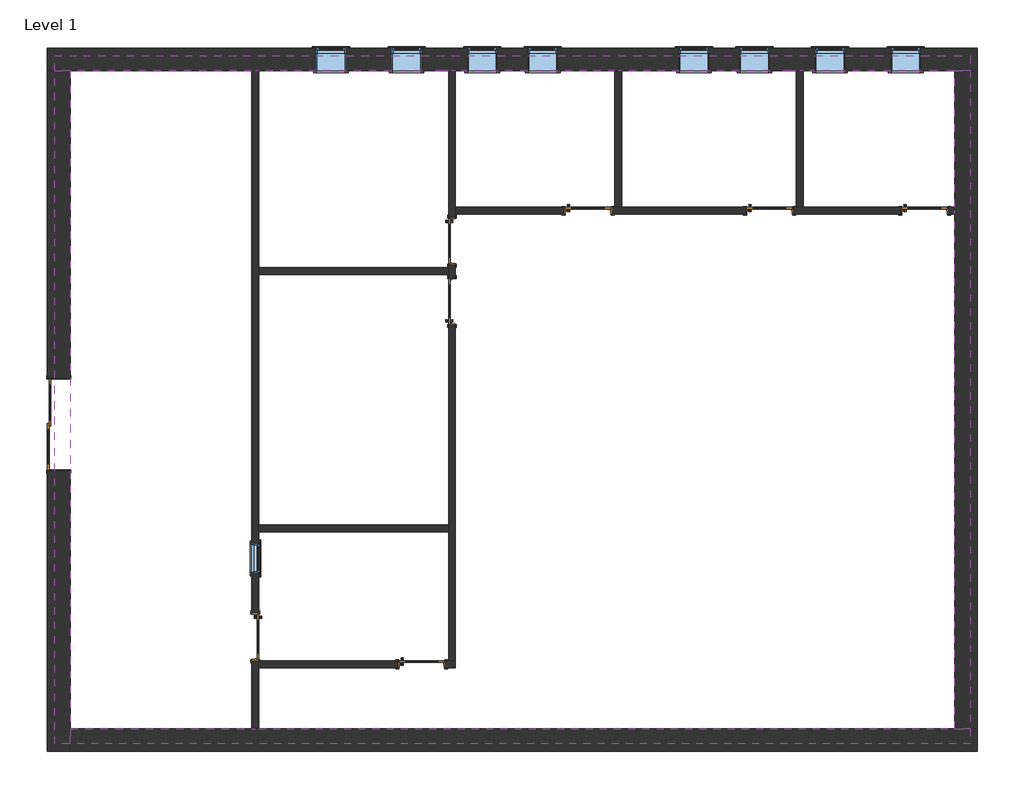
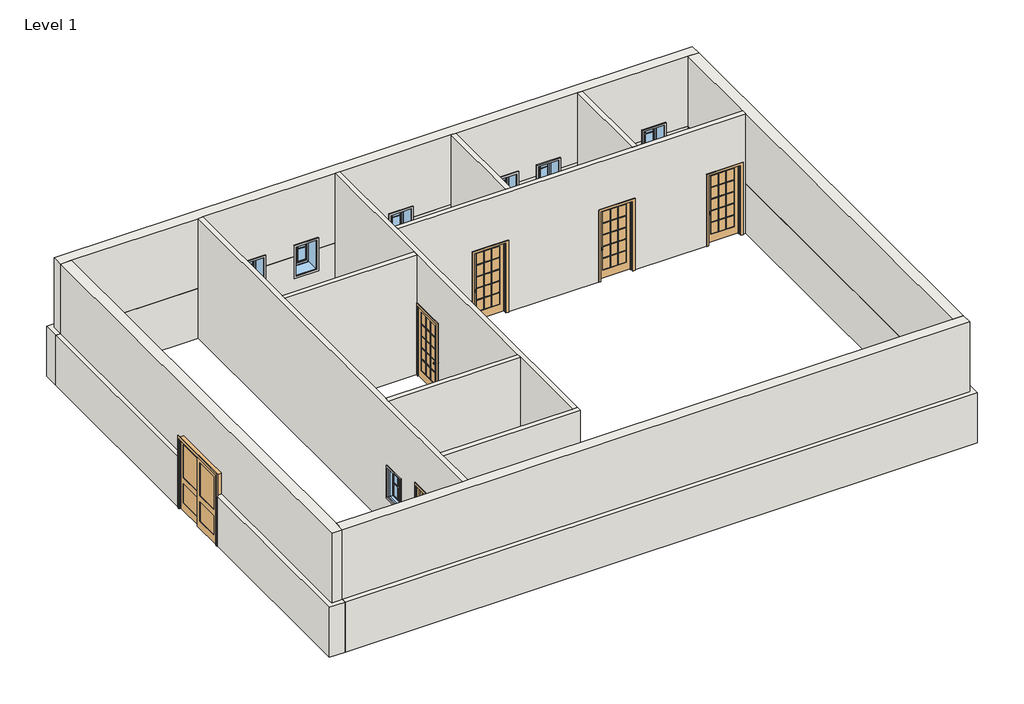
# One storey: 27 proxies, 16 walls, 9 windows, 8 doors.
"""IFC4 building model written with IfcOpenShell, lengths in millimetres."""

from ifc_helpers import new_model, si_unit, origin, origin_with_axes, place, context, project, spatial, polyline, outline, extrude, faceted_brep, transform, mapped, element, save
from components import muntin_pattern_2x2_muntin_pattern_2x2_cf4092f1, muntin_pattern_2x2_muntin_pattern_2x2_49143b38, trim_window_exterior_flat_with_sill_a665a915, trim_window_exterior_flat_with_sill_4c72db77, trim_window_interior_flat_picture_frame_d485c387, trim_window_interior_flat_picture_frame_dfd23ff3, door_5c496fa4, door_918c180d, door_79dd3e86, window_d7bc73cd, window_1658a7ae, window_2d4a29d0

model = new_model("IFC4")

# Units and contexts
model_context = context("Model", 3, world=origin())
ifc_project = project(units=[si_unit("LENGTHUNIT", "METRE", prefix="MILLI")], contexts=[model_context])

# Site, building, storey
site = spatial("IfcSite", under=ifc_project)
building = spatial("IfcBuilding", under=site)
storey = spatial("IfcBuildingStorey", under=building, Name="Level 1", Elevation=0.0)

# Proxies
placement = place(None, origin())
muntin_pattern_2x2_muntin_pattern_2x2_shape = muntin_pattern_2x2_muntin_pattern_2x2_cf4092f1(model_context)
element("IfcBuildingElementProxy", 1, Name="Muntin Pattern_2x2 : Muntin Pattern_2x2", ObjectType="Muntin Pattern_2x2 : Muntin Pattern_2x2", at=placement, inside=storey, context=model_context, shape_type="MappedRepresentation", body=[
    mapped(muntin_pattern_2x2_muntin_pattern_2x2_shape, transform((-14168.6597136, 1858.8705992, 984.25), x_axis=(0.0, -1.0, 0.0), y_axis=(1.0, 0.0, 0.0), z_axis=(0.0, 0.0, 1.0))),
])
element("IfcBuildingElementProxy", 2, Name="Muntin Pattern_2x2 : Muntin Pattern_2x2", ObjectType="Muntin Pattern_2x2 : Muntin Pattern_2x2", at=placement, inside=storey, context=model_context, shape_type="MappedRepresentation", body=[
    mapped(muntin_pattern_2x2_muntin_pattern_2x2_shape, transform((-1122.5847136, 12134.7580992, 984.25), x_axis=(1.0, 0.0, 0.0), y_axis=(0.0, 1.0, 0.0), z_axis=(0.0, 0.0, 1.0))),
])
element("IfcBuildingElementProxy", 3, Name="Muntin Pattern_2x2 : Muntin Pattern_2x2", ObjectType="Muntin Pattern_2x2 : Muntin Pattern_2x2", at=placement, inside=storey, context=model_context, shape_type="MappedRepresentation", body=[
    mapped(muntin_pattern_2x2_muntin_pattern_2x2_shape, transform((-2646.5847136, 12134.7580992, 984.25), x_axis=(1.0, 0.0, 0.0), y_axis=(0.0, 1.0, 0.0), z_axis=(0.0, 0.0, 1.0))),
])
element("IfcBuildingElementProxy", 4, Name="Muntin Pattern_2x2 : Muntin Pattern_2x2", ObjectType="Muntin Pattern_2x2 : Muntin Pattern_2x2", at=placement, inside=storey, context=model_context, shape_type="MappedRepresentation", body=[
    mapped(muntin_pattern_2x2_muntin_pattern_2x2_shape, transform((-4170.5847136, 12134.7580992, 984.25), x_axis=(1.0, 0.0, 0.0), y_axis=(0.0, 1.0, 0.0), z_axis=(0.0, 0.0, 1.0))),
])
element("IfcBuildingElementProxy", 5, Name="Muntin Pattern_2x2 : Muntin Pattern_2x2", ObjectType="Muntin Pattern_2x2 : Muntin Pattern_2x2", at=placement, inside=storey, context=model_context, shape_type="MappedRepresentation", body=[
    mapped(muntin_pattern_2x2_muntin_pattern_2x2_shape, transform((-5389.7847136, 12134.7580992, 984.25), x_axis=(1.0, 0.0, 0.0), y_axis=(0.0, 1.0, 0.0), z_axis=(0.0, 0.0, 1.0))),
])
muntin_pattern_2x2_muntin_pattern_2x2_2_shape = muntin_pattern_2x2_muntin_pattern_2x2_49143b38(model_context)
element("IfcBuildingElementProxy", 6, Name="Muntin Pattern_2x2 : Muntin Pattern_2x2", ObjectType="Muntin Pattern_2x2 : Muntin Pattern_2x2", at=placement, inside=storey, context=model_context, shape_type="MappedRepresentation", body=[
    mapped(muntin_pattern_2x2_muntin_pattern_2x2_2_shape, transform((-12704.9847136, 12134.7580992, 984.25), x_axis=(-1.0, 0.0, 0.0), y_axis=(0.0, -1.0, 0.0), z_axis=(0.0, 0.0, 1.0))),
])
element("IfcBuildingElementProxy", 7, Name="Muntin Pattern_2x2 : Muntin Pattern_2x2", ObjectType="Muntin Pattern_2x2 : Muntin Pattern_2x2", at=placement, inside=storey, context=model_context, shape_type="MappedRepresentation", body=[
    mapped(muntin_pattern_2x2_muntin_pattern_2x2_2_shape, transform((-11180.9847136, 12134.7580992, 984.25), x_axis=(-1.0, 0.0, 0.0), y_axis=(0.0, -1.0, 0.0), z_axis=(0.0, 0.0, 1.0))),
])
element("IfcBuildingElementProxy", 8, Name="Muntin Pattern_2x2 : Muntin Pattern_2x2", ObjectType="Muntin Pattern_2x2 : Muntin Pattern_2x2", at=placement, inside=storey, context=model_context, shape_type="MappedRepresentation", body=[
    mapped(muntin_pattern_2x2_muntin_pattern_2x2_2_shape, transform((-9656.9847136, 12134.7580992, 984.25), x_axis=(-1.0, 0.0, 0.0), y_axis=(0.0, -1.0, 0.0), z_axis=(0.0, 0.0, 1.0))),
])
element("IfcBuildingElementProxy", 9, Name="Muntin Pattern_2x2 : Muntin Pattern_2x2", ObjectType="Muntin Pattern_2x2 : Muntin Pattern_2x2", at=placement, inside=storey, context=model_context, shape_type="MappedRepresentation", body=[
    mapped(muntin_pattern_2x2_muntin_pattern_2x2_2_shape, transform((-8437.7847136, 12134.7580992, 984.25), x_axis=(-1.0, 0.0, 0.0), y_axis=(0.0, -1.0, 0.0), z_axis=(0.0, 0.0, 1.0))),
])
trim_window_exterior_flat_with_sill_shape = trim_window_exterior_flat_with_sill_a665a915(model_context)
element("IfcBuildingElementProxy", 10, Name="Trim-Window-Exterior-Flat : with Sill", ObjectType="Trim-Window-Exterior-Flat : with Sill", at=placement, inside=storey, context=model_context, shape_type="MappedRepresentation", body=[
    mapped(trim_window_exterior_flat_with_sill_shape, transform((-14159.1347136, 1858.8705992, 1828.8), x_axis=(0.0, 1.0, 0.0), y_axis=(0.0, 0.0, 1.0), z_axis=(1.0, 0.0, 0.0))),
])
element("IfcBuildingElementProxy", 11, Name="Trim-Window-Exterior-Flat : with Sill", ObjectType="Trim-Window-Exterior-Flat : with Sill", at=placement, inside=storey, context=model_context, shape_type="MappedRepresentation", body=[
    mapped(trim_window_exterior_flat_with_sill_shape, transform((-1122.5847136, 12144.2830992, 1828.8), x_axis=(-1.0, 0.0, 0.0), y_axis=(0.0, 0.0, 1.0), z_axis=(0.0, 1.0, 0.0))),
])
element("IfcBuildingElementProxy", 12, Name="Trim-Window-Exterior-Flat : with Sill", ObjectType="Trim-Window-Exterior-Flat : with Sill", at=placement, inside=storey, context=model_context, shape_type="MappedRepresentation", body=[
    mapped(trim_window_exterior_flat_with_sill_shape, transform((-2646.5847136, 12144.2830992, 1828.8), x_axis=(-1.0, 0.0, 0.0), y_axis=(0.0, 0.0, 1.0), z_axis=(0.0, 1.0, 0.0))),
])
element("IfcBuildingElementProxy", 13, Name="Trim-Window-Exterior-Flat : with Sill", ObjectType="Trim-Window-Exterior-Flat : with Sill", at=placement, inside=storey, context=model_context, shape_type="MappedRepresentation", body=[
    mapped(trim_window_exterior_flat_with_sill_shape, transform((-4170.5847136, 12144.2830992, 1828.8), x_axis=(-1.0, 0.0, 0.0), y_axis=(0.0, 0.0, 1.0), z_axis=(0.0, 1.0, 0.0))),
])
element("IfcBuildingElementProxy", 14, Name="Trim-Window-Exterior-Flat : with Sill", ObjectType="Trim-Window-Exterior-Flat : with Sill", at=placement, inside=storey, context=model_context, shape_type="MappedRepresentation", body=[
    mapped(trim_window_exterior_flat_with_sill_shape, transform((-5389.7847136, 12144.2830992, 1828.8), x_axis=(-1.0, 0.0, 0.0), y_axis=(0.0, 0.0, 1.0), z_axis=(0.0, 1.0, 0.0))),
])
trim_window_exterior_flat_with_sill_2_shape = trim_window_exterior_flat_with_sill_4c72db77(model_context)
element("IfcBuildingElementProxy", 15, Name="Trim-Window-Exterior-Flat : with Sill", ObjectType="Trim-Window-Exterior-Flat : with Sill", at=placement, inside=storey, context=model_context, shape_type="MappedRepresentation", body=[
    mapped(trim_window_exterior_flat_with_sill_2_shape, transform((-12704.9847136, 12144.2830992, 1828.8), x_axis=(1.0, 0.0, 0.0), y_axis=(0.0, 0.0, -1.0), z_axis=(0.0, 1.0, 0.0))),
])
element("IfcBuildingElementProxy", 16, Name="Trim-Window-Exterior-Flat : with Sill", ObjectType="Trim-Window-Exterior-Flat : with Sill", at=placement, inside=storey, context=model_context, shape_type="MappedRepresentation", body=[
    mapped(trim_window_exterior_flat_with_sill_2_shape, transform((-11180.9847136, 12144.2830992, 1828.8), x_axis=(1.0, 0.0, 0.0), y_axis=(0.0, 0.0, -1.0), z_axis=(0.0, 1.0, 0.0))),
])
element("IfcBuildingElementProxy", 17, Name="Trim-Window-Exterior-Flat : with Sill", ObjectType="Trim-Window-Exterior-Flat : with Sill", at=placement, inside=storey, context=model_context, shape_type="MappedRepresentation", body=[
    mapped(trim_window_exterior_flat_with_sill_2_shape, transform((-9656.9847136, 12144.2830992, 1828.8), x_axis=(1.0, 0.0, 0.0), y_axis=(0.0, 0.0, -1.0), z_axis=(0.0, 1.0, 0.0))),
])
element("IfcBuildingElementProxy", 18, Name="Trim-Window-Exterior-Flat : with Sill", ObjectType="Trim-Window-Exterior-Flat : with Sill", at=placement, inside=storey, context=model_context, shape_type="MappedRepresentation", body=[
    mapped(trim_window_exterior_flat_with_sill_2_shape, transform((-8437.7847136, 12144.2830992, 1828.8), x_axis=(1.0, 0.0, 0.0), y_axis=(0.0, 0.0, -1.0), z_axis=(0.0, 1.0, 0.0))),
])
trim_window_interior_flat_picture_frame_shape = trim_window_interior_flat_picture_frame_d485c387(model_context)
element("IfcBuildingElementProxy", 19, Name="Trim-Window-Interior-Flat : Picture Frame", ObjectType="Trim-Window-Interior-Flat : Picture Frame", at=placement, inside=storey, context=model_context, shape_type="MappedRepresentation", body=[
    mapped(trim_window_interior_flat_picture_frame_shape, transform((-14298.8347136, 1858.8705992, 1828.8), x_axis=(0.0, -1.0, 0.0), y_axis=(0.0, 0.0, 1.0), z_axis=(-1.0, 0.0, 0.0))),
])
element("IfcBuildingElementProxy", 20, Name="Trim-Window-Interior-Flat : Picture Frame", ObjectType="Trim-Window-Interior-Flat : Picture Frame", at=placement, inside=storey, context=model_context, shape_type="MappedRepresentation", body=[
    mapped(trim_window_interior_flat_picture_frame_shape, transform((-1122.5847136, 11690.2580992, 1828.8), x_axis=(1.0, 0.0, 0.0), y_axis=(0.0, 0.0, 1.0), z_axis=(0.0, -1.0, 0.0))),
])
element("IfcBuildingElementProxy", 21, Name="Trim-Window-Interior-Flat : Picture Frame", ObjectType="Trim-Window-Interior-Flat : Picture Frame", at=placement, inside=storey, context=model_context, shape_type="MappedRepresentation", body=[
    mapped(trim_window_interior_flat_picture_frame_shape, transform((-2646.5847136, 11690.2580992, 1828.8), x_axis=(1.0, 0.0, 0.0), y_axis=(0.0, 0.0, 1.0), z_axis=(0.0, -1.0, 0.0))),
])
element("IfcBuildingElementProxy", 22, Name="Trim-Window-Interior-Flat : Picture Frame", ObjectType="Trim-Window-Interior-Flat : Picture Frame", at=placement, inside=storey, context=model_context, shape_type="MappedRepresentation", body=[
    mapped(trim_window_interior_flat_picture_frame_shape, transform((-4170.5847136, 11690.2580992, 1828.8), x_axis=(1.0, 0.0, 0.0), y_axis=(0.0, 0.0, 1.0), z_axis=(0.0, -1.0, 0.0))),
])
element("IfcBuildingElementProxy", 23, Name="Trim-Window-Interior-Flat : Picture Frame", ObjectType="Trim-Window-Interior-Flat : Picture Frame", at=placement, inside=storey, context=model_context, shape_type="MappedRepresentation", body=[
    mapped(trim_window_interior_flat_picture_frame_shape, transform((-5389.7847136, 11690.2580992, 1828.8), x_axis=(1.0, 0.0, 0.0), y_axis=(0.0, 0.0, 1.0), z_axis=(0.0, -1.0, 0.0))),
])
trim_window_interior_flat_picture_frame_2_shape = trim_window_interior_flat_picture_frame_dfd23ff3(model_context)
element("IfcBuildingElementProxy", 24, Name="Trim-Window-Interior-Flat : Picture Frame", ObjectType="Trim-Window-Interior-Flat : Picture Frame", at=placement, inside=storey, context=model_context, shape_type="MappedRepresentation", body=[
    mapped(trim_window_interior_flat_picture_frame_2_shape, transform((-12704.9847136, 11690.2580992, 1828.8), x_axis=(-1.0, 0.0, 0.0), y_axis=(0.0, 0.0, -1.0), z_axis=(0.0, -1.0, 0.0))),
])
element("IfcBuildingElementProxy", 25, Name="Trim-Window-Interior-Flat : Picture Frame", ObjectType="Trim-Window-Interior-Flat : Picture Frame", at=placement, inside=storey, context=model_context, shape_type="MappedRepresentation", body=[
    mapped(trim_window_interior_flat_picture_frame_2_shape, transform((-11180.9847136, 11690.2580992, 1828.8), x_axis=(-1.0, 0.0, 0.0), y_axis=(0.0, 0.0, -1.0), z_axis=(0.0, -1.0, 0.0))),
])
element("IfcBuildingElementProxy", 26, Name="Trim-Window-Interior-Flat : Picture Frame", ObjectType="Trim-Window-Interior-Flat : Picture Frame", at=placement, inside=storey, context=model_context, shape_type="MappedRepresentation", body=[
    mapped(trim_window_interior_flat_picture_frame_2_shape, transform((-9656.9847136, 11690.2580992, 1828.8), x_axis=(-1.0, 0.0, 0.0), y_axis=(0.0, 0.0, -1.0), z_axis=(0.0, -1.0, 0.0))),
])
element("IfcBuildingElementProxy", 27, Name="Trim-Window-Interior-Flat : Picture Frame", ObjectType="Trim-Window-Interior-Flat : Picture Frame", at=placement, inside=storey, context=model_context, shape_type="MappedRepresentation", body=[
    mapped(trim_window_interior_flat_picture_frame_2_shape, transform((-8437.7847136, 11690.2580992, 1828.8), x_axis=(-1.0, 0.0, 0.0), y_axis=(0.0, 0.0, -1.0), z_axis=(0.0, -1.0, 0.0))),
])

# Doors
door_shape = door_5c496fa4(model_context)
element("IfcDoor", 28, ObjectType="Door-Interior-Double-Sliding-2_Panel-Wood : 72\" x 84\"", at=placement, inside=storey, context=model_context, shape_type="MappedRepresentation", body=[
    mapped(door_shape, transform((-18194.5597136, 4559.7577587, 0.0), x_axis=(0.0, 1.0, 0.0), y_axis=(-1.0, 0.0, 0.0), z_axis=(0.0, 0.0, 1.0))),
])
door_2_shape = door_918c180d(model_context)
element("IfcDoor", 29, ObjectType="Door-Interior-Single-Full Glass-Wood : 36\" x 84\"", at=placement, inside=storey, context=model_context, shape_type="MappedRepresentation", body=[
    mapped(door_2_shape, transform((-14225.8097136, 277.7205992, 0.0), x_axis=(0.0, -1.0, 0.0), y_axis=(1.0, 0.0, 0.0), z_axis=(0.0, 0.0, 1.0))),
])
element("IfcDoor", 30, ObjectType="Door-Interior-Single-Full Glass-Wood : 36\" x 84\"", at=placement, inside=storey, context=model_context, shape_type="MappedRepresentation", body=[
    mapped(door_2_shape, transform((-10269.7597136, 7040.4705992, 0.0), x_axis=(0.0, 1.0, 0.0), y_axis=(-1.0, 0.0, 0.0), z_axis=(0.0, 0.0, 1.0))),
])
element("IfcDoor", 31, ObjectType="Door-Interior-Single-Full Glass-Wood : 36\" x 84\"", at=placement, inside=storey, context=model_context, shape_type="MappedRepresentation", body=[
    mapped(door_2_shape, transform((-7523.3847136, 8872.4455992, 0.0), x_axis=(1.0, 0.0, 0.0), y_axis=(0.0, 1.0, 0.0), z_axis=(0.0, 0.0, 1.0))),
])
element("IfcDoor", 32, ObjectType="Door-Interior-Single-Full Glass-Wood : 36\" x 84\"", at=placement, inside=storey, context=model_context, shape_type="MappedRepresentation", body=[
    mapped(door_2_shape, transform((-3865.7847136, 8872.4455992, 0.0), x_axis=(1.0, 0.0, 0.0), y_axis=(0.0, 1.0, 0.0), z_axis=(0.0, 0.0, 1.0))),
])
element("IfcDoor", 33, ObjectType="Door-Interior-Single-Full Glass-Wood : 36\" x 84\"", at=placement, inside=storey, context=model_context, shape_type="MappedRepresentation", body=[
    mapped(door_2_shape, transform((-739.9972136, 8872.4455992, 0.0), x_axis=(1.0, 0.0, 0.0), y_axis=(0.0, 1.0, 0.0), z_axis=(0.0, 0.0, 1.0))),
])
element("IfcDoor", 34, ObjectType="Door-Interior-Single-Full Glass-Wood : 36\" x 84\"", at=placement, inside=storey, context=model_context, shape_type="MappedRepresentation", body=[
    mapped(door_2_shape, transform((-10876.1847136, -271.5544008, 0.0), x_axis=(1.0, 0.0, 0.0), y_axis=(0.0, 1.0, 0.0), z_axis=(0.0, 0.0, 1.0))),
])
door_3_shape = door_79dd3e86(model_context)
element("IfcDoor", 35, ObjectType="Door-Interior-Single-Full Glass-Wood : 36\" x 84\"", at=placement, inside=storey, context=model_context, shape_type="MappedRepresentation", body=[
    mapped(door_3_shape, transform((-10269.7597136, 8259.6705992, 0.0), x_axis=(0.0, -1.0, 0.0), y_axis=(1.0, 0.0, 0.0), z_axis=(0.0, 0.0, 1.0))),
])

# Walls
element("IfcWall", 36, ObjectType="Exterior - CMU on Mtl. Stud", at=placement, inside=storey, context=model_context, shape_type="Brep", body=[
    faceted_brep([(-18418.3972136, 11690.2580992, 0.0), (-17964.3722136, 11690.2580992, 0.0), (-14298.8347136, 11690.2580992, 0.0), (-14159.1347136, 11690.2580992, 0.0), (-10336.4347136, 11690.2580992, 0.0), (-10196.7347136, 11690.2580992, 0.0), (-6983.6347136, 11690.2580992, 0.0), (-6843.9347136, 11690.2580992, 0.0), (-3326.0347136, 11690.2580992, 0.0), (-3186.3347136, 11690.2580992, 0.0), (-130.3972136, 11690.2580992, 0.0), (323.6277864, 11690.2580992, 0.0), (323.6277864, 11690.2580992, 1524.0), (180.7527864, 11690.2580992, 1524.0), (-130.3972136, 11690.2580992, 1524.0), (-817.7847136, 11690.2580992, 1524.0), (-817.7847136, 11690.2580992, 914.4), (-1427.3847136, 11690.2580992, 914.4), (-1427.3847136, 11690.2580992, 1524.0), (-2341.7847136, 11690.2580992, 1524.0), (-2341.7847136, 11690.2580992, 914.4), (-2951.3847136, 11690.2580992, 914.4), (-2951.3847136, 11690.2580992, 1524.0), (-3865.7847136, 11690.2580992, 1524.0), (-3865.7847136, 11690.2580992, 914.4), (-4475.3847136, 11690.2580992, 914.4), (-4475.3847136, 11690.2580992, 1524.0), (-5084.9847136, 11690.2580992, 1524.0), (-5084.9847136, 11690.2580992, 914.4), (-5694.5847136, 11690.2580992, 914.4), (-5694.5847136, 11690.2580992, 1524.0), (-8132.9847136, 11690.2580992, 1524.0), (-8132.9847136, 11690.2580992, 914.4), (-8742.5847136, 11690.2580992, 914.4), (-8742.5847136, 11690.2580992, 1524.0), (-9352.1847136, 11690.2580992, 1524.0), (-9352.1847136, 11690.2580992, 914.4), (-9961.7847136, 11690.2580992, 914.4), (-9961.7847136, 11690.2580992, 1524.0), (-10876.1847136, 11690.2580992, 1524.0), (-10876.1847136, 11690.2580992, 914.4), (-11485.7847136, 11690.2580992, 914.4), (-11485.7847136, 11690.2580992, 1524.0), (-12400.1847136, 11690.2580992, 1524.0), (-12400.1847136, 11690.2580992, 914.4), (-13009.7847136, 11690.2580992, 914.4), (-13009.7847136, 11690.2580992, 1524.0), (-17964.3722136, 11690.2580992, 1524.0), (-18275.5222136, 11690.2580992, 1524.0), (-18418.3972136, 11690.2580992, 1524.0), (323.6277864, 12144.2830992, 0.0), (-18418.3972136, 12144.2830992, 0.0), (-18418.3972136, 12144.2830992, 1524.0), (-13009.7847136, 12144.2830992, 1524.0), (-13009.7847136, 12144.2830992, 914.4), (-12400.1847136, 12144.2830992, 914.4), (-12400.1847136, 12144.2830992, 1524.0), (-11485.7847136, 12144.2830992, 1524.0), (-11485.7847136, 12144.2830992, 914.4), (-10876.1847136, 12144.2830992, 914.4), (-10876.1847136, 12144.2830992, 1524.0), (-9961.7847136, 12144.2830992, 1524.0), (-9961.7847136, 12144.2830992, 914.4), (-9352.1847136, 12144.2830992, 914.4), (-9352.1847136, 12144.2830992, 1524.0), (-8742.5847136, 12144.2830992, 1524.0), (-8742.5847136, 12144.2830992, 914.4), (-8132.9847136, 12144.2830992, 914.4), (-8132.9847136, 12144.2830992, 1524.0), (-5694.5847136, 12144.2830992, 1524.0), (-5694.5847136, 12144.2830992, 914.4), (-5084.9847136, 12144.2830992, 914.4), (-5084.9847136, 12144.2830992, 1524.0), (-4475.3847136, 12144.2830992, 1524.0), (-4475.3847136, 12144.2830992, 914.4), (-3865.7847136, 12144.2830992, 914.4), (-3865.7847136, 12144.2830992, 1524.0), (-2951.3847136, 12144.2830992, 1524.0), (-2951.3847136, 12144.2830992, 914.4), (-2341.7847136, 12144.2830992, 914.4), (-2341.7847136, 12144.2830992, 1524.0), (-1427.3847136, 12144.2830992, 1524.0), (-1427.3847136, 12144.2830992, 914.4), (-817.7847136, 12144.2830992, 914.4), (-817.7847136, 12144.2830992, 1524.0), (323.6277864, 12144.2830992, 1524.0), (-13009.7847136, 12001.4080992, 1524.0), (-817.7847136, 12001.4080992, 1524.0), (-1427.3847136, 12001.4080992, 1524.0), (-2341.7847136, 12001.4080992, 1524.0), (-2951.3847136, 12001.4080992, 1524.0), (-3865.7847136, 12001.4080992, 1524.0), (-4475.3847136, 12001.4080992, 1524.0), (-5084.9847136, 12001.4080992, 1524.0), (-5694.5847136, 12001.4080992, 1524.0), (-8132.9847136, 12001.4080992, 1524.0), (-8742.5847136, 12001.4080992, 1524.0), (-9352.1847136, 12001.4080992, 1524.0), (-9961.7847136, 12001.4080992, 1524.0), (-10876.1847136, 12001.4080992, 1524.0), (-11485.7847136, 12001.4080992, 1524.0), (-12400.1847136, 12001.4080992, 1524.0)], [[[0, 1, 2, 3, 4, 5, 6, 7, 8, 9, 10, 11, 12, 13, 14, 15, 16, 17, 18, 19, 20, 21, 22, 23, 24, 25, 26, 27, 28, 29, 30, 31, 32, 33, 34, 35, 36, 37, 38, 39, 40, 41, 42, 43, 44, 45, 46, 47, 48, 49]], [[50, 51, 52, 53, 54, 55, 56, 57, 58, 59, 60, 61, 62, 63, 64, 65, 66, 67, 68, 69, 70, 71, 72, 73, 74, 75, 76, 77, 78, 79, 80, 81, 82, 83, 84, 85]], [[11, 10, 9, 8, 7, 6, 5, 4, 3, 2, 1, 0, 51, 50]], [[52, 49, 48, 47, 46, 86, 53]], [[12, 85, 84, 87, 15, 14, 13]], [[18, 88, 81, 80, 89, 19]], [[22, 90, 77, 76, 91, 23]], [[26, 92, 73, 72, 93, 27]], [[30, 94, 69, 68, 95, 31]], [[34, 96, 65, 64, 97, 35]], [[38, 98, 61, 60, 99, 39]], [[42, 100, 57, 56, 101, 43]], [[0, 49, 52, 51]], [[12, 11, 50, 85]], [[83, 16, 15, 87, 84]], [[16, 83, 82, 17]], [[17, 82, 81, 88, 18]], [[79, 20, 19, 89, 80]], [[20, 79, 78, 21]], [[21, 78, 77, 90, 22]], [[75, 24, 23, 91, 76]], [[24, 75, 74, 25]], [[25, 74, 73, 92, 26]], [[71, 28, 27, 93, 72]], [[28, 71, 70, 29]], [[29, 70, 69, 94, 30]], [[33, 66, 65, 96, 34]], [[66, 33, 32, 67]], [[67, 32, 31, 95, 68]], [[37, 62, 61, 98, 38]], [[62, 37, 36, 63]], [[63, 36, 35, 97, 64]], [[41, 58, 57, 100, 42]], [[58, 41, 40, 59]], [[59, 40, 39, 99, 60]], [[45, 54, 53, 86, 46]], [[54, 45, 44, 55]], [[55, 44, 43, 101, 56]]]),
])
element("IfcWall", 37, ObjectType="Exterior - CMU on Mtl. Stud", at=placement, inside=storey, context=model_context, shape_type="Brep", body=[
    faceted_brep([(-17964.3722136, 11690.2580992, 0.0), (-17964.3722136, 11690.2580992, 1524.0), (-17964.3722136, 5499.5577587, 1524.0), (-17964.3722136, 5499.5577587, 0.0), (-18418.3972136, 11690.2580992, 1524.0), (-18418.3972136, 11690.2580992, 0.0), (-18418.3972136, 5499.5577587, 0.0), (-18418.3972136, 5499.5577587, 1524.0), (-18275.5222136, 11690.2580992, 1524.0), (-18275.5222136, 5499.5577587, 1524.0)], [[[0, 1, 2, 3]], [[4, 5, 6, 7]], [[5, 0, 3, 6]], [[1, 8, 4, 7, 9, 2]], [[1, 0, 5, 4, 8]], [[3, 2, 9, 7, 6]]]),
    faceted_brep([(-17964.3722136, -2025.7419008, 1524.0), (-17964.3722136, -2025.7419008, 0.0), (-17964.3722136, -1571.7169008, 0.0), (-17964.3722136, 3619.9577587, 0.0), (-17964.3722136, 3619.9577587, 1524.0), (-17964.3722136, -1571.7169008, 1524.0), (-17964.3722136, -1882.8669008, 1524.0), (-18418.3972136, -2025.7419008, 0.0), (-18418.3972136, -2025.7419008, 1524.0), (-18418.3972136, 3619.9577587, 1524.0), (-18418.3972136, 3619.9577587, 0.0), (-18275.5222136, 3619.9577587, 1524.0)], [[[0, 1, 2, 3, 4, 5, 6]], [[7, 8, 9, 10]], [[1, 7, 10, 3, 2]], [[8, 0, 6, 5, 4, 11, 9]], [[1, 0, 8, 7]], [[4, 3, 10, 9, 11]]]),
])
element("IfcWall", 38, ObjectType="Exterior - CMU on Mtl. Stud", at=placement, inside=storey, context=model_context, shape_type="Brep", body=[
    faceted_brep([(323.6277864, -1571.7169008, 0.0), (-130.3972136, -1571.7169008, 0.0), (-14159.1347136, -1571.7169008, 0.0), (-14298.8347136, -1571.7169008, 0.0), (-17964.3722136, -1571.7169008, 0.0), (-17964.3722136, -1571.7169008, 1524.0), (-130.3972136, -1571.7169008, 1524.0), (180.7527864, -1571.7169008, 1524.0), (323.6277864, -1571.7169008, 1524.0), (323.6277864, -2025.7419008, 0.0), (323.6277864, -2025.7419008, 1524.0), (-17964.3722136, -2025.7419008, 1524.0), (-17964.3722136, -2025.7419008, 0.0), (-17964.3722136, -1882.8669008, 1524.0)], [[[0, 1, 2, 3, 4, 5, 6, 7, 8]], [[9, 10, 11, 12]], [[4, 3, 2, 1, 0, 9, 12]], [[8, 7, 6, 5, 13, 11, 10]], [[0, 8, 10, 9]], [[5, 4, 12, 11, 13]]]),
])
element("IfcWall", 39, ObjectType="Exterior - CMU on Mtl. Stud", at=placement, inside=storey, context=model_context, shape_type="Brep", body=[
    faceted_brep([(-130.3972136, 11690.2580992, 0.0), (-130.3972136, 8939.1205992, 0.0), (-130.3972136, 8799.4205992, 0.0), (-130.3972136, -1571.7169008, 0.0), (-130.3972136, -1571.7169008, 1524.0), (-130.3972136, 11690.2580992, 1524.0), (323.6277864, 11690.2580992, 0.0), (323.6277864, 11690.2580992, 1524.0), (323.6277864, -1571.7169008, 1524.0), (323.6277864, -1571.7169008, 0.0), (180.7527864, -1571.7169008, 1524.0), (180.7527864, 11690.2580992, 1524.0)], [[[0, 1, 2, 3, 4, 5]], [[6, 7, 8, 9]], [[3, 2, 1, 0, 6, 9]], [[5, 4, 10, 8, 7, 11]], [[0, 5, 11, 7, 6]], [[4, 3, 9, 8, 10]]]),
])
element("IfcWall", 40, ObjectType="Exterior - EIFS on Mtl. Stud", at=placement, inside=storey, context=model_context, shape_type="Brep", body=[
    faceted_brep([(180.7527864, 11690.2580992, 3657.6), (-130.3972136, 11690.2580992, 3657.6), (-3186.3347136, 11690.2580992, 3657.6), (-3326.0347136, 11690.2580992, 3657.6), (-6843.9347136, 11690.2580992, 3657.6), (-6983.6347136, 11690.2580992, 3657.6), (-10196.7347136, 11690.2580992, 3657.6), (-10336.4347136, 11690.2580992, 3657.6), (-14159.1347136, 11690.2580992, 3657.6), (-14298.8347136, 11690.2580992, 3657.6), (-17964.3722136, 11690.2580992, 3657.6), (-18275.5222136, 11690.2580992, 3657.6), (-18275.5222136, 11690.2580992, 1524.0), (-17964.3722136, 11690.2580992, 1524.0), (-13009.7847136, 11690.2580992, 1524.0), (-13009.7847136, 11690.2580992, 1828.8), (-12400.1847136, 11690.2580992, 1828.8), (-12400.1847136, 11690.2580992, 1524.0), (-11485.7847136, 11690.2580992, 1524.0), (-11485.7847136, 11690.2580992, 1828.8), (-10876.1847136, 11690.2580992, 1828.8), (-10876.1847136, 11690.2580992, 1524.0), (-9961.7847136, 11690.2580992, 1524.0), (-9961.7847136, 11690.2580992, 1828.8), (-9352.1847136, 11690.2580992, 1828.8), (-9352.1847136, 11690.2580992, 1524.0), (-8742.5847136, 11690.2580992, 1524.0), (-8742.5847136, 11690.2580992, 1828.8), (-8132.9847136, 11690.2580992, 1828.8), (-8132.9847136, 11690.2580992, 1524.0), (-5694.5847136, 11690.2580992, 1524.0), (-5694.5847136, 11690.2580992, 1828.8), (-5084.9847136, 11690.2580992, 1828.8), (-5084.9847136, 11690.2580992, 1524.0), (-4475.3847136, 11690.2580992, 1524.0), (-4475.3847136, 11690.2580992, 1828.8), (-3865.7847136, 11690.2580992, 1828.8), (-3865.7847136, 11690.2580992, 1524.0), (-2951.3847136, 11690.2580992, 1524.0), (-2951.3847136, 11690.2580992, 1828.8), (-2341.7847136, 11690.2580992, 1828.8), (-2341.7847136, 11690.2580992, 1524.0), (-1427.3847136, 11690.2580992, 1524.0), (-1427.3847136, 11690.2580992, 1828.8), (-817.7847136, 11690.2580992, 1828.8), (-817.7847136, 11690.2580992, 1524.0), (-130.3972136, 11690.2580992, 1524.0), (180.7527864, 11690.2580992, 1524.0), (-18275.5222136, 12001.4080992, 3657.6), (180.7527864, 12001.4080992, 3657.6), (180.7527864, 12001.4080992, 1524.0), (-817.7847136, 12001.4080992, 1524.0), (-817.7847136, 12001.4080992, 1828.8), (-1427.3847136, 12001.4080992, 1828.8), (-1427.3847136, 12001.4080992, 1524.0), (-2341.7847136, 12001.4080992, 1524.0), (-2341.7847136, 12001.4080992, 1828.8), (-2951.3847136, 12001.4080992, 1828.8), (-2951.3847136, 12001.4080992, 1524.0), (-3865.7847136, 12001.4080992, 1524.0), (-3865.7847136, 12001.4080992, 1828.8), (-4475.3847136, 12001.4080992, 1828.8), (-4475.3847136, 12001.4080992, 1524.0), (-5084.9847136, 12001.4080992, 1524.0), (-5084.9847136, 12001.4080992, 1828.8), (-5694.5847136, 12001.4080992, 1828.8), (-5694.5847136, 12001.4080992, 1524.0), (-8132.9847136, 12001.4080992, 1524.0), (-8132.9847136, 12001.4080992, 1828.8), (-8742.5847136, 12001.4080992, 1828.8), (-8742.5847136, 12001.4080992, 1524.0), (-9352.1847136, 12001.4080992, 1524.0), (-9352.1847136, 12001.4080992, 1828.8), (-9961.7847136, 12001.4080992, 1828.8), (-9961.7847136, 12001.4080992, 1524.0), (-10876.1847136, 12001.4080992, 1524.0), (-10876.1847136, 12001.4080992, 1828.8), (-11485.7847136, 12001.4080992, 1828.8), (-11485.7847136, 12001.4080992, 1524.0), (-12400.1847136, 12001.4080992, 1524.0), (-12400.1847136, 12001.4080992, 1828.8), (-13009.7847136, 12001.4080992, 1828.8), (-13009.7847136, 12001.4080992, 1524.0), (-18275.5222136, 12001.4080992, 1524.0)], [[[0, 1, 2, 3, 4, 5, 6, 7, 8, 9, 10, 11, 12, 13, 14, 15, 16, 17, 18, 19, 20, 21, 22, 23, 24, 25, 26, 27, 28, 29, 30, 31, 32, 33, 34, 35, 36, 37, 38, 39, 40, 41, 42, 43, 44, 45, 46, 47]], [[48, 49, 50, 51, 52, 53, 54, 55, 56, 57, 58, 59, 60, 61, 62, 63, 64, 65, 66, 67, 68, 69, 70, 71, 72, 73, 74, 75, 76, 77, 78, 79, 80, 81, 82, 83]], [[12, 83, 82, 14, 13]], [[50, 47, 46, 45, 51]], [[54, 42, 41, 55]], [[58, 38, 37, 59]], [[62, 34, 33, 63]], [[66, 30, 29, 67]], [[70, 26, 25, 71]], [[74, 22, 21, 75]], [[78, 18, 17, 79]], [[11, 10, 9, 8, 7, 6, 5, 4, 3, 2, 1, 0, 49, 48]], [[12, 11, 48, 83]], [[0, 47, 50, 49]], [[44, 52, 51, 45]], [[53, 43, 42, 54]], [[52, 44, 43, 53]], [[40, 56, 55, 41]], [[57, 39, 38, 58]], [[56, 40, 39, 57]], [[36, 60, 59, 37]], [[61, 35, 34, 62]], [[60, 36, 35, 61]], [[32, 64, 63, 33]], [[65, 31, 30, 66]], [[64, 32, 31, 65]], [[69, 27, 26, 70]], [[28, 68, 67, 29]], [[27, 69, 68, 28]], [[73, 23, 22, 74]], [[24, 72, 71, 25]], [[23, 73, 72, 24]], [[77, 19, 18, 78]], [[20, 76, 75, 21]], [[19, 77, 76, 20]], [[81, 15, 14, 82]], [[16, 80, 79, 17]], [[15, 81, 80, 16]]]),
])
element("IfcWall", 41, ObjectType="Exterior - EIFS on Mtl. Stud", at=placement, inside=storey, context=model_context, shape_type="Brep", body=[
    faceted_brep([(-17964.3722136, 11690.2580992, 3657.6), (-17964.3722136, -1571.7169008, 3657.6), (-17964.3722136, -1882.8669008, 3657.6), (-17964.3722136, -1882.8669008, 1524.0), (-17964.3722136, -1571.7169008, 1524.0), (-17964.3722136, 3619.9577587, 1524.0), (-17964.3722136, 3619.9577587, 2159.0), (-17964.3722136, 5499.5577587, 2159.0), (-17964.3722136, 5499.5577587, 1524.0), (-17964.3722136, 11690.2580992, 1524.0), (-18275.5222136, -1882.8669008, 3657.6), (-18275.5222136, 11690.2580992, 3657.6), (-18275.5222136, 11690.2580992, 1524.0), (-18275.5222136, 5499.5577587, 1524.0), (-18275.5222136, 5499.5577587, 2159.0), (-18275.5222136, 3619.9577587, 2159.0), (-18275.5222136, 3619.9577587, 1524.0), (-18275.5222136, -1882.8669008, 1524.0)], [[[0, 1, 2, 3, 4, 5, 6, 7, 8, 9]], [[10, 11, 12, 13, 14, 15, 16, 17]], [[3, 17, 16, 5, 4]], [[12, 9, 8, 13]], [[2, 1, 0, 11, 10]], [[3, 2, 10, 17]], [[0, 9, 12, 11]], [[7, 14, 13, 8]], [[14, 7, 6, 15]], [[15, 6, 5, 16]]]),
])
element("IfcWall", 42, ObjectType="Exterior - EIFS on Mtl. Stud", at=placement, inside=storey, context=model_context, shape_type="Brep", body=[
    faceted_brep([(180.7527864, -1571.7169008, 1524.0), (-130.3972136, -1571.7169008, 1524.0), (-17964.3722136, -1571.7169008, 1524.0), (-17964.3722136, -1571.7169008, 3657.6), (-14298.8347136, -1571.7169008, 3657.6), (-14159.1347136, -1571.7169008, 3657.6), (-130.3972136, -1571.7169008, 3657.6), (180.7527864, -1571.7169008, 3657.6), (180.7527864, -1882.8669008, 1524.0), (180.7527864, -1882.8669008, 3657.6), (-17964.3722136, -1882.8669008, 3657.6), (-17964.3722136, -1882.8669008, 1524.0)], [[[0, 1, 2, 3, 4, 5, 6, 7]], [[8, 9, 10, 11]], [[2, 1, 0, 8, 11]], [[7, 6, 5, 4, 3, 10, 9]], [[0, 7, 9, 8]], [[3, 2, 11, 10]]]),
])
element("IfcWall", 43, ObjectType="Exterior - EIFS on Mtl. Stud", at=placement, inside=storey, context=model_context, shape_type="Brep", body=[
    faceted_brep([(-130.3972136, 11690.2580992, 1524.0), (-130.3972136, -1571.7169008, 1524.0), (-130.3972136, -1571.7169008, 3657.6), (-130.3972136, 8799.4205992, 3657.6), (-130.3972136, 8939.1205992, 3657.6), (-130.3972136, 11690.2580992, 3657.6), (180.7527864, 11690.2580992, 1524.0), (180.7527864, 11690.2580992, 3657.6), (180.7527864, -1571.7169008, 3657.6), (180.7527864, -1571.7169008, 1524.0)], [[[0, 1, 2, 3, 4, 5]], [[6, 7, 8, 9]], [[1, 0, 6, 9]], [[5, 4, 3, 2, 8, 7]], [[0, 5, 7, 6]], [[2, 1, 9, 8]]]),
])
element("IfcWall", 44, ObjectType="Interior - 5 1/2\" Partition (1-hr)", at=placement, inside=storey, context=model_context, shape_type="Brep", body=[
    faceted_brep([(-14298.8347136, -1571.7169008, 3657.6), (-14298.8347136, 11690.2580992, 3657.6), (-14298.8347136, 11690.2580992, 0.0), (-14298.8347136, 760.3205992, 0.0), (-14298.8347136, 760.3205992, 2159.0), (-14298.8347136, -204.8794008, 2159.0), (-14298.8347136, -204.8794008, 0.0), (-14298.8347136, -1571.7169008, 0.0), (-14298.8347136, 1554.0705992, 1828.8), (-14298.8347136, 1554.0705992, 914.4), (-14298.8347136, 2163.6705992, 914.4), (-14298.8347136, 2163.6705992, 1828.8), (-14159.1347136, 11690.2580992, 3657.6), (-14159.1347136, 7719.9205992, 3657.6), (-14159.1347136, 7580.2205992, 3657.6), (-14159.1347136, 2538.3205992, 3657.6), (-14159.1347136, 2398.6205992, 3657.6), (-14159.1347136, -204.8794008, 3657.6), (-14159.1347136, -344.5794008, 3657.6), (-14159.1347136, -1571.7169008, 3657.6), (-14159.1347136, -1571.7169008, 0.0), (-14159.1347136, -344.5794008, 0.0), (-14159.1347136, -204.8794008, 0.0), (-14159.1347136, -204.8794008, 2159.0), (-14159.1347136, 760.3205992, 2159.0), (-14159.1347136, 760.3205992, 0.0), (-14159.1347136, 2398.6205992, 0.0), (-14159.1347136, 2538.3205992, 0.0), (-14159.1347136, 7580.2205992, 0.0), (-14159.1347136, 7719.9205992, 0.0), (-14159.1347136, 11690.2580992, 0.0), (-14159.1347136, 1554.0705992, 1828.8), (-14159.1347136, 2163.6705992, 1828.8), (-14159.1347136, 2163.6705992, 914.4), (-14159.1347136, 1554.0705992, 914.4)], [[[0, 1, 2, 3, 4, 5, 6, 7], [8, 9, 10, 11]], [[12, 13, 14, 15, 16, 17, 18, 19, 20, 21, 22, 23, 24, 25, 26, 27, 28, 29, 30], [31, 32, 33, 34]], [[2, 30, 29, 28, 27, 26, 25, 3]], [[20, 7, 6, 22, 21]], [[1, 0, 19, 18, 17, 16, 15, 14, 13, 12]], [[30, 2, 1, 12]], [[7, 20, 19, 0]], [[5, 23, 22, 6]], [[23, 5, 4, 24]], [[24, 4, 3, 25]], [[9, 8, 31, 34]], [[10, 9, 34, 33]], [[11, 10, 33, 32]], [[8, 11, 32, 31]]]),
])
element("IfcWall", 45, ObjectType="Interior - 5 1/2\" Partition (1-hr)", at=placement, inside=storey, context=model_context, shape_type="Brep", body=[
    faceted_brep([(-10196.7347136, -344.5794008, 3657.6), (-14159.1347136, -344.5794008, 3657.6), (-14159.1347136, -344.5794008, 0.0), (-11358.7847136, -344.5794008, 0.0), (-11358.7847136, -344.5794008, 2159.0), (-10393.5847136, -344.5794008, 2159.0), (-10393.5847136, -344.5794008, 0.0), (-10196.7347136, -344.5794008, 0.0), (-14159.1347136, -204.8794008, 3657.6), (-10336.4347136, -204.8794008, 3657.6), (-10196.7347136, -204.8794008, 3657.6), (-10196.7347136, -204.8794008, 0.0), (-10336.4347136, -204.8794008, 0.0), (-10393.5847136, -204.8794008, 0.0), (-10393.5847136, -204.8794008, 2159.0), (-11358.7847136, -204.8794008, 2159.0), (-11358.7847136, -204.8794008, 0.0), (-14159.1347136, -204.8794008, 0.0), (-14159.1347136, -204.8794008, 2159.0)], [[[0, 1, 2, 3, 4, 5, 6, 7]], [[8, 9, 10, 11, 12, 13, 14, 15, 16, 17, 18]], [[2, 17, 16, 3]], [[11, 7, 6, 13, 12]], [[1, 0, 10, 9, 8]], [[2, 1, 8, 18, 17]], [[0, 7, 11, 10]], [[5, 14, 13, 6]], [[14, 5, 4, 15]], [[15, 4, 3, 16]]]),
])
element("IfcWall", 46, ObjectType="Interior - 5 1/2\" Partition (1-hr)", at=placement, inside=storey, context=model_context, shape_type="Brep", body=[
    faceted_brep([(-10196.7347136, 11690.2580992, 3657.6), (-10196.7347136, 8939.1205992, 3657.6), (-10196.7347136, 8799.4205992, 3657.6), (-10196.7347136, -204.8794008, 3657.6), (-10196.7347136, -204.8794008, 0.0), (-10196.7347136, 6557.8705992, 0.0), (-10196.7347136, 6557.8705992, 2159.0), (-10196.7347136, 7523.0705992, 2159.0), (-10196.7347136, 7523.0705992, 0.0), (-10196.7347136, 7777.0705992, 0.0), (-10196.7347136, 7777.0705992, 2159.0), (-10196.7347136, 8742.2705992, 2159.0), (-10196.7347136, 8742.2705992, 0.0), (-10196.7347136, 8799.4205992, 0.0), (-10196.7347136, 8939.1205992, 0.0), (-10196.7347136, 11690.2580992, 0.0), (-10336.4347136, -204.8794008, 3657.6), (-10336.4347136, 2398.6205992, 3657.6), (-10336.4347136, 2538.3205992, 3657.6), (-10336.4347136, 7580.2205992, 3657.6), (-10336.4347136, 7719.9205992, 3657.6), (-10336.4347136, 11690.2580992, 3657.6), (-10336.4347136, 11690.2580992, 0.0), (-10336.4347136, 8742.2705992, 0.0), (-10336.4347136, 8742.2705992, 2159.0), (-10336.4347136, 7777.0705992, 2159.0), (-10336.4347136, 7777.0705992, 0.0), (-10336.4347136, 7719.9205992, 0.0), (-10336.4347136, 7580.2205992, 0.0), (-10336.4347136, 7523.0705992, 0.0), (-10336.4347136, 7523.0705992, 2159.0), (-10336.4347136, 6557.8705992, 2159.0), (-10336.4347136, 6557.8705992, 0.0), (-10336.4347136, 2538.3205992, 0.0), (-10336.4347136, 2398.6205992, 0.0), (-10336.4347136, -204.8794008, 0.0)], [[[0, 1, 2, 3, 4, 5, 6, 7, 8, 9, 10, 11, 12, 13, 14, 15]], [[16, 17, 18, 19, 20, 21, 22, 23, 24, 25, 26, 27, 28, 29, 30, 31, 32, 33, 34, 35]], [[4, 35, 34, 33, 32, 5]], [[22, 15, 14, 13, 12, 23]], [[8, 29, 28, 27, 26, 9]], [[3, 2, 1, 0, 21, 20, 19, 18, 17, 16]], [[4, 3, 16, 35]], [[15, 22, 21, 0]], [[7, 30, 29, 8]], [[30, 7, 6, 31]], [[31, 6, 5, 32]], [[25, 10, 9, 26]], [[10, 25, 24, 11]], [[11, 24, 23, 12]]]),
])
element("IfcWall", 47, ObjectType="Interior - 5 1/2\" Partition (1-hr)", at=placement, inside=storey, context=model_context, shape_type="Brep", body=[
    faceted_brep([(-10196.7347136, 8939.1205992, 3657.6), (-6983.6347136, 8939.1205992, 3657.6), (-6843.9347136, 8939.1205992, 3657.6), (-3326.0347136, 8939.1205992, 3657.6), (-3186.3347136, 8939.1205992, 3657.6), (-130.3972136, 8939.1205992, 3657.6), (-130.3972136, 8939.1205992, 0.0), (-257.3972136, 8939.1205992, 0.0), (-257.3972136, 8939.1205992, 2159.0), (-1222.5972136, 8939.1205992, 2159.0), (-1222.5972136, 8939.1205992, 0.0), (-3186.3347136, 8939.1205992, 0.0), (-3326.0347136, 8939.1205992, 0.0), (-3383.1847136, 8939.1205992, 0.0), (-3383.1847136, 8939.1205992, 2159.0), (-4348.3847136, 8939.1205992, 2159.0), (-4348.3847136, 8939.1205992, 0.0), (-6843.9347136, 8939.1205992, 0.0), (-6983.6347136, 8939.1205992, 0.0), (-7040.7847136, 8939.1205992, 0.0), (-7040.7847136, 8939.1205992, 2159.0), (-8005.9847136, 8939.1205992, 2159.0), (-8005.9847136, 8939.1205992, 0.0), (-10196.7347136, 8939.1205992, 0.0), (-130.3972136, 8799.4205992, 3657.6), (-10196.7347136, 8799.4205992, 3657.6), (-10196.7347136, 8799.4205992, 0.0), (-8005.9847136, 8799.4205992, 0.0), (-8005.9847136, 8799.4205992, 2159.0), (-7040.7847136, 8799.4205992, 2159.0), (-7040.7847136, 8799.4205992, 0.0), (-4348.3847136, 8799.4205992, 0.0), (-4348.3847136, 8799.4205992, 2159.0), (-3383.1847136, 8799.4205992, 2159.0), (-3383.1847136, 8799.4205992, 0.0), (-1222.5972136, 8799.4205992, 0.0), (-1222.5972136, 8799.4205992, 2159.0), (-257.3972136, 8799.4205992, 2159.0), (-257.3972136, 8799.4205992, 0.0), (-130.3972136, 8799.4205992, 0.0)], [[[0, 1, 2, 3, 4, 5, 6, 7, 8, 9, 10, 11, 12, 13, 14, 15, 16, 17, 18, 19, 20, 21, 22, 23]], [[24, 25, 26, 27, 28, 29, 30, 31, 32, 33, 34, 35, 36, 37, 38, 39]], [[6, 39, 38, 7]], [[26, 23, 22, 27]], [[30, 19, 18, 17, 16, 31]], [[34, 13, 12, 11, 10, 35]], [[5, 4, 3, 2, 1, 0, 25, 24]], [[39, 6, 5, 24]], [[0, 23, 26, 25]], [[29, 20, 19, 30]], [[20, 29, 28, 21]], [[21, 28, 27, 22]], [[33, 14, 13, 34]], [[14, 33, 32, 15]], [[15, 32, 31, 16]], [[37, 8, 7, 38]], [[8, 37, 36, 9]], [[9, 36, 35, 10]]]),
])
element("IfcWall", 48, ObjectType="Interior - 5 1/2\" Partition (1-hr)", at=placement, inside=storey, context=model_context, shape_type="SweptSolid", body=[
    extrude(outline(polyline([(-10336.4347136, 7580.2205992), (-14159.1347136, 7580.2205992), (-14159.1347136, 7719.9205992), (-10336.4347136, 7719.9205992), (-10336.4347136, 7580.2205992)])), origin_with_axes(), (0.0, 0.0, 1.0), 3657.6),
])
element("IfcWall", 49, ObjectType="Interior - 5 1/2\" Partition (1-hr)", at=placement, inside=storey, context=model_context, shape_type="SweptSolid", body=[
    extrude(outline(polyline([(-10336.4347136, 2398.6205992), (-14159.1347136, 2398.6205992), (-14159.1347136, 2538.3205992), (-10336.4347136, 2538.3205992), (-10336.4347136, 2398.6205992)])), origin_with_axes(), (0.0, 0.0, 1.0), 3657.6),
])
element("IfcWall", 50, ObjectType="Interior - 5 1/2\" Partition (1-hr)", at=placement, inside=storey, context=model_context, shape_type="SweptSolid", body=[
    extrude(outline(polyline([(-3326.0347136, 8939.1205992), (-3326.0347136, 11690.2580992), (-3186.3347136, 11690.2580992), (-3186.3347136, 8939.1205992), (-3326.0347136, 8939.1205992)])), origin_with_axes(), (0.0, 0.0, 1.0), 3657.6),
])
element("IfcWall", 51, ObjectType="Interior - 5 1/2\" Partition (1-hr)", at=placement, inside=storey, context=model_context, shape_type="SweptSolid", body=[
    extrude(outline(polyline([(-6983.6347136, 8939.1205992), (-6983.6347136, 11690.2580992), (-6843.9347136, 11690.2580992), (-6843.9347136, 8939.1205992), (-6983.6347136, 8939.1205992)])), origin_with_axes(), (0.0, 0.0, 1.0), 3657.6),
])

# Windows
window_shape = window_d7bc73cd(model_context)
element("IfcWindow", 52, ObjectType="Window-Awning-Single : 24\" x 36\"", at=placement, inside=storey, context=model_context, shape_type="MappedRepresentation", body=[
    mapped(window_shape, transform((-14228.9847136, 1858.8705992, 0.0), x_axis=(0.0, -1.0, 0.0), y_axis=(1.0, 0.0, 0.0), z_axis=(0.0, 0.0, 1.0))),
])
window_2_shape = window_1658a7ae(model_context)
element("IfcWindow", 53, ObjectType="Window-Awning-Single : 24\" x 36\"", at=placement, inside=storey, context=model_context, shape_type="MappedRepresentation", body=[
    mapped(window_2_shape, transform((-1122.5847136, 11917.2705992, 0.0), x_axis=(1.0, 0.0, 0.0), y_axis=(0.0, 1.0, 0.0), z_axis=(0.0, 0.0, 1.0))),
])
element("IfcWindow", 54, ObjectType="Window-Awning-Single : 24\" x 36\"", at=placement, inside=storey, context=model_context, shape_type="MappedRepresentation", body=[
    mapped(window_2_shape, transform((-2646.5847136, 11917.2705992, 0.0), x_axis=(1.0, 0.0, 0.0), y_axis=(0.0, 1.0, 0.0), z_axis=(0.0, 0.0, 1.0))),
])
element("IfcWindow", 55, ObjectType="Window-Awning-Single : 24\" x 36\"", at=placement, inside=storey, context=model_context, shape_type="MappedRepresentation", body=[
    mapped(window_2_shape, transform((-4170.5847136, 11917.2705992, 0.0), x_axis=(1.0, 0.0, 0.0), y_axis=(0.0, 1.0, 0.0), z_axis=(0.0, 0.0, 1.0))),
])
element("IfcWindow", 56, ObjectType="Window-Awning-Single : 24\" x 36\"", at=placement, inside=storey, context=model_context, shape_type="MappedRepresentation", body=[
    mapped(window_2_shape, transform((-5389.7847136, 11917.2705992, 0.0), x_axis=(1.0, 0.0, 0.0), y_axis=(0.0, 1.0, 0.0), z_axis=(0.0, 0.0, 1.0))),
])
window_3_shape = window_2d4a29d0(model_context)
element("IfcWindow", 57, ObjectType="Window-Awning-Single : 24\" x 36\"", at=placement, inside=storey, context=model_context, shape_type="MappedRepresentation", body=[
    mapped(window_3_shape, transform((-12704.9847136, 11917.2705992, 0.0), x_axis=(-1.0, 0.0, 0.0), y_axis=(0.0, -1.0, 0.0), z_axis=(0.0, 0.0, 1.0))),
])
element("IfcWindow", 58, ObjectType="Window-Awning-Single : 24\" x 36\"", at=placement, inside=storey, context=model_context, shape_type="MappedRepresentation", body=[
    mapped(window_3_shape, transform((-11180.9847136, 11917.2705992, 0.0), x_axis=(-1.0, 0.0, 0.0), y_axis=(0.0, -1.0, 0.0), z_axis=(0.0, 0.0, 1.0))),
])
element("IfcWindow", 59, ObjectType="Window-Awning-Single : 24\" x 36\"", at=placement, inside=storey, context=model_context, shape_type="MappedRepresentation", body=[
    mapped(window_3_shape, transform((-9656.9847136, 11917.2705992, 0.0), x_axis=(-1.0, 0.0, 0.0), y_axis=(0.0, -1.0, 0.0), z_axis=(0.0, 0.0, 1.0))),
])
element("IfcWindow", 60, ObjectType="Window-Awning-Single : 24\" x 36\"", at=placement, inside=storey, context=model_context, shape_type="MappedRepresentation", body=[
    mapped(window_3_shape, transform((-8437.7847136, 11917.2705992, 0.0), x_axis=(-1.0, 0.0, 0.0), y_axis=(0.0, -1.0, 0.0), z_axis=(0.0, 0.0, 1.0))),
])

save(model, "model.ifc")
